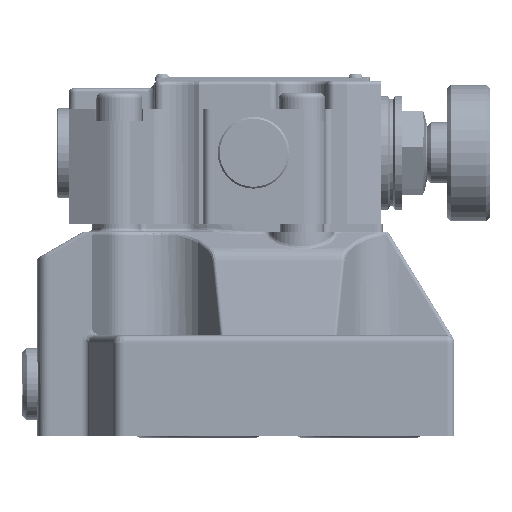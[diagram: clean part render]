
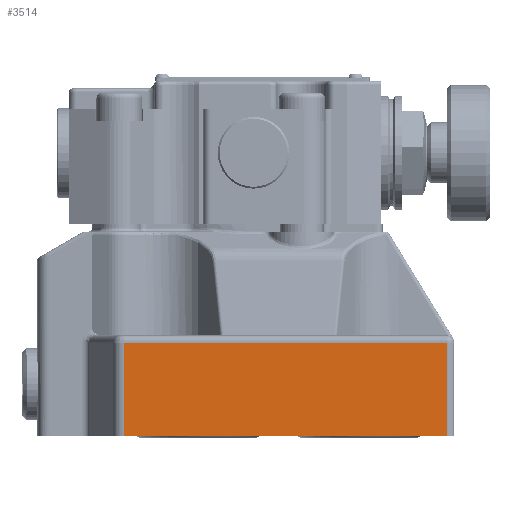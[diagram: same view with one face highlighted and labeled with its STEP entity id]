
A CAD part, front view. The second image highlights one B-rep face of the part: STEP entity #3514.
In plain terms, the highlighted planar face has unit normal (0, -1, 0).
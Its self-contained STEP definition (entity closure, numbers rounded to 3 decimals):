
#1280=PLANE('',#12533);
#1647=FACE_OUTER_BOUND('',#5373,.T.);
#2167=LINE('',#17373,#2817);
#2252=LINE('',#17806,#2902);
#2267=LINE('',#17871,#2917);
#2268=LINE('',#17873,#2918);
#2817=VECTOR('',#13724,1.);
#2902=VECTOR('',#14005,1.);
#2917=VECTOR('',#14046,1.);
#2918=VECTOR('',#14047,1.);
#3514=ADVANCED_FACE('',(#1647),#1280,.F.);
#5373=EDGE_LOOP('',(#6566,#6567,#6568,#6569));
#6566=ORIENTED_EDGE('',*,*,#10531,.T.);
#6567=ORIENTED_EDGE('',*,*,#10725,.T.);
#6568=ORIENTED_EDGE('',*,*,#10726,.T.);
#6569=ORIENTED_EDGE('',*,*,#10702,.T.);
#9435=VERTEX_POINT('',#17372);
#9436=VERTEX_POINT('',#17374);
#9578=VERTEX_POINT('',#17807);
#9591=VERTEX_POINT('',#17872);
#10531=EDGE_CURVE('',#9436,#9435,#2167,.T.);
#10702=EDGE_CURVE('',#9578,#9436,#2252,.T.);
#10725=EDGE_CURVE('',#9435,#9591,#2267,.T.);
#10726=EDGE_CURVE('',#9591,#9578,#2268,.T.);
#12533=AXIS2_PLACEMENT_3D('',#17874,#14048,#14049);
#13724=DIRECTION('',(1.,0.,0.));
#14005=DIRECTION('',(0.,0.,-1.));
#14046=DIRECTION('',(0.,0.,1.));
#14047=DIRECTION('',(-1.,0.,0.));
#14048=DIRECTION('',(0.,1.,0.));
#14049=DIRECTION('',(0.,0.,-1.));
#17372=CARTESIAN_POINT('',(-640.76,-106.932,31.));
#17373=CARTESIAN_POINT('',(-730.982,-106.932,31.));
#17374=CARTESIAN_POINT('',(-730.982,-106.932,31.));
#17806=CARTESIAN_POINT('',(-730.982,-106.932,90.));
#17807=CARTESIAN_POINT('',(-730.982,-106.932,57.));
#17871=CARTESIAN_POINT('',(-640.76,-106.932,90.));
#17872=CARTESIAN_POINT('',(-640.76,-106.932,57.));
#17873=CARTESIAN_POINT('',(-730.982,-106.932,57.));
#17874=CARTESIAN_POINT('',(-730.982,-106.932,90.));
